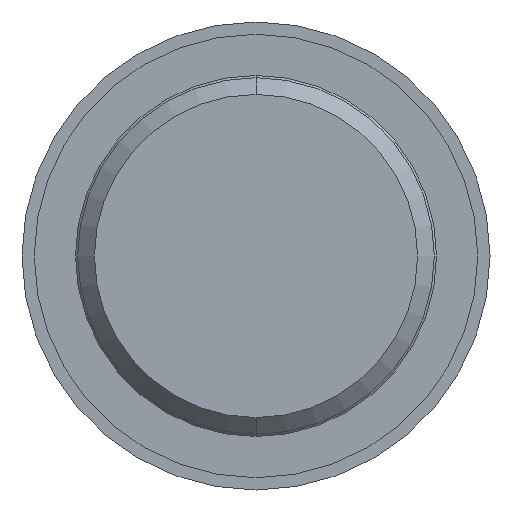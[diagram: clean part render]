
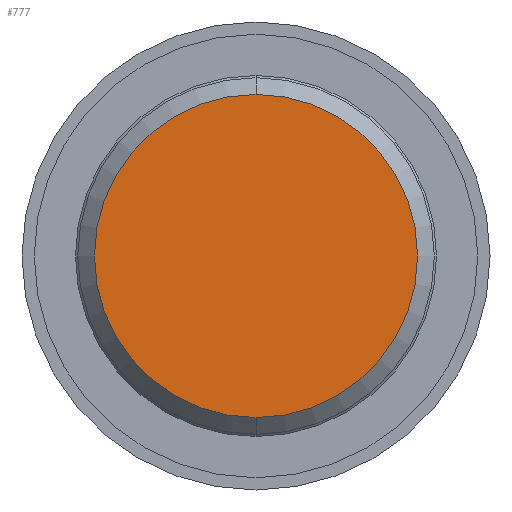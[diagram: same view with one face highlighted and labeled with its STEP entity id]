
A CAD part, front view. The second image highlights one B-rep face of the part: STEP entity #777.
In plain terms, the highlighted planar face has unit normal (0, -1, 0).
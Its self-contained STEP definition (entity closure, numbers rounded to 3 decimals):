
#35 = DIRECTION ( 'NONE',  ( 0., 0., 1. ) ) ;
#77 = CARTESIAN_POINT ( 'NONE',  ( 0., 0., 0. ) ) ;
#108 = DIRECTION ( 'NONE',  ( 0., 1., 0. ) ) ;
#129 = CARTESIAN_POINT ( 'NONE',  ( 0., 0., 7.25 ) ) ;
#169 = DIRECTION ( 'NONE',  ( 0., 0., 1. ) ) ;
#180 = VERTEX_POINT ( 'NONE', #129 ) ;
#238 = AXIS2_PLACEMENT_3D ( 'NONE', #273, #283, #588 ) ;
#240 = DIRECTION ( 'NONE',  ( 0., 1., 0. ) ) ;
#273 = CARTESIAN_POINT ( 'NONE',  ( 7.25, 0., 0. ) ) ;
#283 = DIRECTION ( 'NONE',  ( 0., 1., 0. ) ) ;
#318 = ORIENTED_EDGE ( 'NONE', *, *, #629, .F. ) ;
#394 = AXIS2_PLACEMENT_3D ( 'NONE', #553, #108, #35 ) ;
#544 = CARTESIAN_POINT ( 'NONE',  ( 0., 0., -7.25 ) ) ;
#553 = CARTESIAN_POINT ( 'NONE',  ( 0., 0., 0. ) ) ;
#555 = EDGE_CURVE ( 'NONE', #572, #180, #618, .T. ) ;
#572 = VERTEX_POINT ( 'NONE', #544 ) ;
#579 = CIRCLE ( 'NONE', #394, 7.25 ) ;
#588 = DIRECTION ( 'NONE',  ( 0., 0., 1. ) ) ;
#590 = ORIENTED_EDGE ( 'NONE', *, *, #555, .F. ) ;
#601 = AXIS2_PLACEMENT_3D ( 'NONE', #77, #240, #169 ) ;
#618 = CIRCLE ( 'NONE', #601, 7.25 ) ;
#629 = EDGE_CURVE ( 'NONE', #180, #572, #579, .T. ) ;
#655 = FACE_OUTER_BOUND ( 'NONE', #775, .T. ) ;
#775 = EDGE_LOOP ( 'NONE', ( #318, #590 ) ) ;
#777 = ADVANCED_FACE ( 'NONE', ( #655 ), #958, .F. ) ;
#958 = PLANE ( 'NONE',  #238 ) ;
